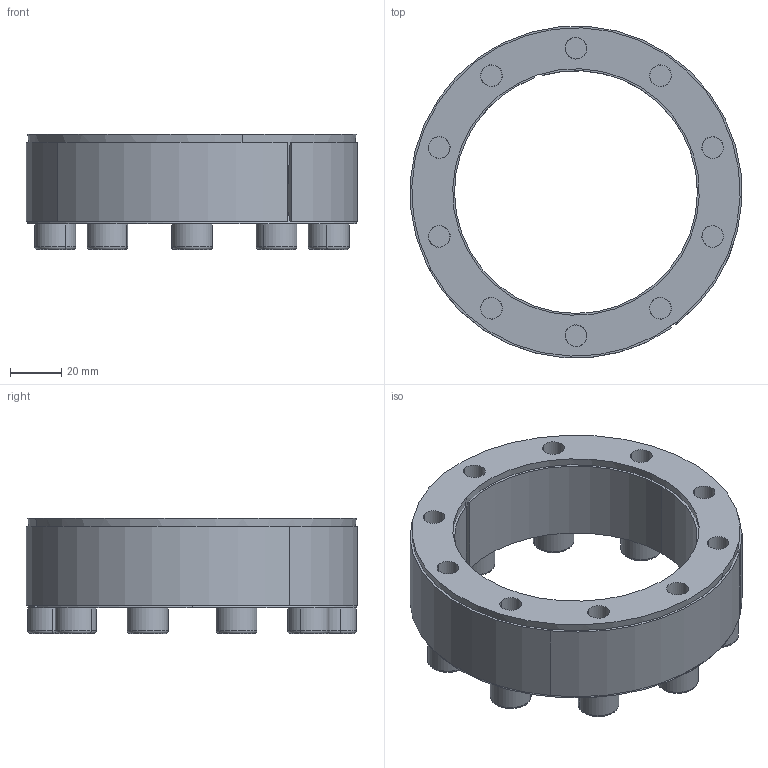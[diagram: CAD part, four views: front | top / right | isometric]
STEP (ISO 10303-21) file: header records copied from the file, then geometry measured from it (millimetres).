
FILE_DESCRIPTION (( 'STEP AP214' ), '1' );
FILE_NAME ('CONEX-L-95x130.step', '2013-04-06T13:23:35', ( 'Pc' ), ( '' ), 'SwSTEP 2.0', 'SolidWorks 2013', '' );
FILE_SCHEMA (( 'AUTOMOTIVE_DESIGN' ));
Length unit declared in the file: millimetre
Products named in the file (1): CONEX-L-95x130
Bounding box: 129.67 x 129.6 x 45.03 mm (x, y, z)
Volume: 204405.4 mm3; surface area: 105606.2 mm2
Topology: 13 solids, 13 shells, 353 faces, 809 edges, 482 vertices
Faces by surface type: plane 161, cylinder 96, cone 56, torus 40
Entity records: 13937 total; most frequent: DIRECTION 1870, CARTESIAN_POINT 1661, ORIENTED_EDGE 1578, EDGE_CURVE 789, AXIS2_PLACEMENT_3D 735, VERTEX_POINT 482, EDGE_LOOP 425, LINE 400
